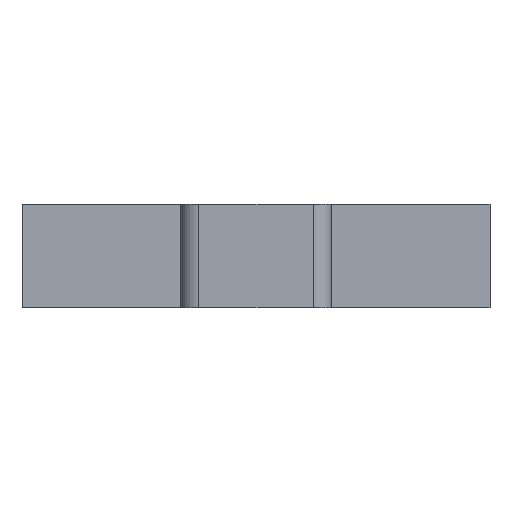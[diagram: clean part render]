
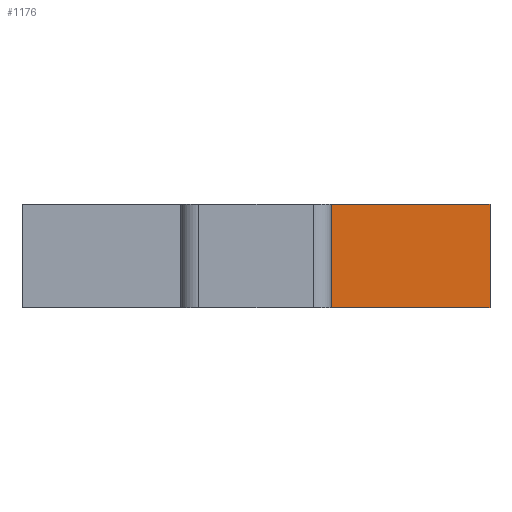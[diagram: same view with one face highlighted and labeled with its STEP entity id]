
A CAD part, left-side view. The second image highlights one B-rep face of the part: STEP entity #1176.
In plain terms, the highlighted planar face has unit normal (-1, 0, 0).
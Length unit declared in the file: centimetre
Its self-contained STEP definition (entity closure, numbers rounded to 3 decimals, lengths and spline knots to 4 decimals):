
#447=VERTEX_POINT('',#3446);
#448=VERTEX_POINT('',#3448);
#472=VERTEX_POINT('',#3511);
#482=VERTEX_POINT('',#3551);
#574=EDGE_CURVE('',#448,#447,#1923,.T.);
#607=EDGE_CURVE('',#472,#448,#1946,.T.);
#627=EDGE_CURVE('',#447,#482,#1962,.T.);
#628=EDGE_CURVE('',#482,#472,#1963,.T.);
#858=ORIENTED_EDGE('',*,*,#607,.T.);
#859=ORIENTED_EDGE('',*,*,#574,.T.);
#860=ORIENTED_EDGE('',*,*,#627,.T.);
#861=ORIENTED_EDGE('',*,*,#628,.T.);
#1045=EDGE_LOOP('',(#858,#859,#860,#861));
#1113=FACE_BOUND('',#1045,.T.);
#1176=ADVANCED_FACE('',(#1113),#2885,.T.);
#1923=LINE('',#3447,#2778);
#1946=LINE('',#3510,#2801);
#1962=LINE('',#3550,#2817);
#1963=LINE('',#3552,#2818);
#2596=AXIS2_PLACEMENT_3D('',#3549,#3944,$);
#2778=VECTOR('',#3858,1.);
#2801=VECTOR('',#3907,1.);
#2817=VECTOR('',#3945,1.);
#2818=VECTOR('',#3946,1.);
#2885=PLANE('',#2596);
#3446=CARTESIAN_POINT('',(-9.5,-0.9,0.));
#3447=CARTESIAN_POINT('',(-9.5,0.9,0.));
#3448=CARTESIAN_POINT('',(-9.5,-0.14,0.));
#3510=CARTESIAN_POINT('',(-9.5,-0.14,0.2));
#3511=CARTESIAN_POINT('',(-9.5,-0.14,0.4));
#3549=CARTESIAN_POINT('',(-9.5,0.,0.));
#3550=CARTESIAN_POINT('',(-9.5,-0.9,0.));
#3551=CARTESIAN_POINT('',(-9.5,-0.9,0.4));
#3552=CARTESIAN_POINT('',(-9.5,0.9,0.4));
#3858=DIRECTION('',(0.,-1.,0.));
#3907=DIRECTION('',(0.,0.,-1.));
#3944=DIRECTION('',(-1.,0.,0.));
#3945=DIRECTION('',(0.,0.,1.));
#3946=DIRECTION('',(0.,1.,0.));
